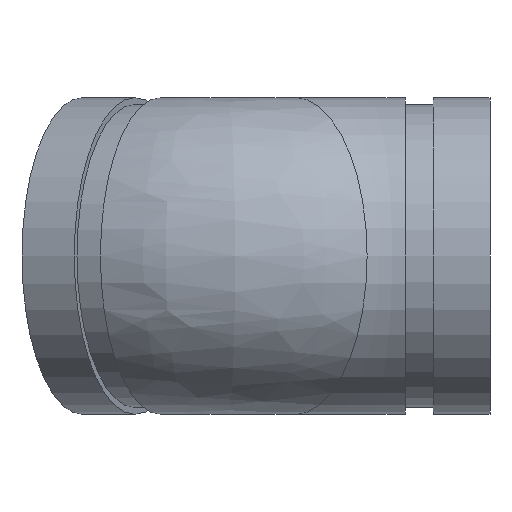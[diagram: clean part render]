
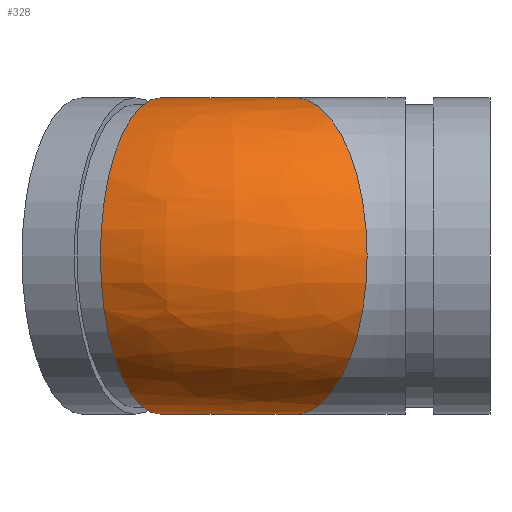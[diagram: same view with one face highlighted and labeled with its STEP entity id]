
A CAD part, left-side view. The second image highlights one B-rep face of the part: STEP entity #328.
In plain terms, the highlighted free-form (B-spline) face has degree [2, 2] with [9, 3] control points.
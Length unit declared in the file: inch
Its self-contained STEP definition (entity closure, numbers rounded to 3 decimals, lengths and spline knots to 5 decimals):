
#63=(
BOUNDED_SURFACE()
B_SPLINE_SURFACE(2,2,((#592,#593,#594),(#595,#596,#597),(#598,#599,#600),
(#601,#602,#603),(#604,#605,#606),(#607,#608,#609),(#610,#611,#612),(#613,
#614,#615),(#616,#617,#618)),.UNSPECIFIED.,.T.,.F.,.F.)
B_SPLINE_SURFACE_WITH_KNOTS((3,2,2,2,3),(3,3),(-3.14159,-1.5708,
0.,1.5708,3.14159),(-0.47669,0.3927),
 .UNSPECIFIED.)
GEOMETRIC_REPRESENTATION_ITEM()
RATIONAL_B_SPLINE_SURFACE(((1.,0.907,1.),(0.707,
0.641,0.707),(1.,0.907,1.),(0.707,
0.641,0.707),(1.,0.907,1.),(0.707,
0.641,0.707),(1.,0.907,1.),(0.707,
0.641,0.707),(1.,0.907,1.)))
REPRESENTATION_ITEM('')
SURFACE()
);
#77=FACE_OUTER_BOUND('',#95,.T.);
#95=EDGE_LOOP('',(#238,#239,#240));
#115=CIRCLE('',#366,1.75);
#127=CIRCLE('',#380,1.75);
#128=CIRCLE('',#381,1.75);
#150=VERTEX_POINT('',#568);
#160=VERTEX_POINT('',#619);
#181=EDGE_CURVE('',#150,#150,#115,.T.);
#193=EDGE_CURVE('',#150,#160,#127,.T.);
#194=EDGE_CURVE('',#160,#150,#128,.T.);
#238=ORIENTED_EDGE('',*,*,#193,.T.);
#239=ORIENTED_EDGE('',*,*,#194,.T.);
#240=ORIENTED_EDGE('',*,*,#181,.F.);
#328=ADVANCED_FACE('',(#77),#63,.F.);
#366=AXIS2_PLACEMENT_3D('',#569,#437,#438);
#380=AXIS2_PLACEMENT_3D('',#620,#465,#466);
#381=AXIS2_PLACEMENT_3D('',#621,#467,#468);
#437=DIRECTION('center_axis',(0.383,0.924,0.));
#438=DIRECTION('ref_axis',(-0.924,0.383,0.));
#465=DIRECTION('center_axis',(-0.459,0.889,0.));
#466=DIRECTION('ref_axis',(-0.889,-0.459,0.));
#467=DIRECTION('center_axis',(-0.459,0.889,0.));
#468=DIRECTION('ref_axis',(-0.889,-0.459,0.));
#568=CARTESIAN_POINT('',(1.25783,2.9637,0.));
#569=CARTESIAN_POINT('Origin',(-0.35896,3.6334,0.));
#592=CARTESIAN_POINT('Ctrl Pts',(1.25783,2.9637,0.));
#593=CARTESIAN_POINT('Ctrl Pts',(1.25783,2.9637,0.));
#594=CARTESIAN_POINT('Ctrl Pts',(1.25783,2.9637,0.));
#595=CARTESIAN_POINT('Ctrl Pts',(1.25783,2.9637,1.75));
#596=CARTESIAN_POINT('Ctrl Pts',(1.25783,2.9637,1.75));
#597=CARTESIAN_POINT('Ctrl Pts',(1.25783,2.9637,1.75));
#598=CARTESIAN_POINT('Ctrl Pts',(-0.29708,2.16074,1.75));
#599=CARTESIAN_POINT('Ctrl Pts',(-0.66991,2.8827,1.75));
#600=CARTESIAN_POINT('Ctrl Pts',(-0.35896,3.6334,1.75));
#601=CARTESIAN_POINT('Ctrl Pts',(-1.85199,1.35777,1.75));
#602=CARTESIAN_POINT('Ctrl Pts',(-2.59764,2.8017,1.75));
#603=CARTESIAN_POINT('Ctrl Pts',(-1.97575,4.3031,1.75));
#604=CARTESIAN_POINT('Ctrl Pts',(-1.85199,1.35777,0.));
#605=CARTESIAN_POINT('Ctrl Pts',(-2.59764,2.8017,0.));
#606=CARTESIAN_POINT('Ctrl Pts',(-1.97575,4.3031,0.));
#607=CARTESIAN_POINT('Ctrl Pts',(-1.85199,1.35777,-1.75));
#608=CARTESIAN_POINT('Ctrl Pts',(-2.59764,2.8017,-1.75));
#609=CARTESIAN_POINT('Ctrl Pts',(-1.97575,4.3031,-1.75));
#610=CARTESIAN_POINT('Ctrl Pts',(-0.29708,2.16074,-1.75));
#611=CARTESIAN_POINT('Ctrl Pts',(-0.66991,2.8827,-1.75));
#612=CARTESIAN_POINT('Ctrl Pts',(-0.35896,3.6334,-1.75));
#613=CARTESIAN_POINT('Ctrl Pts',(1.25783,2.9637,-1.75));
#614=CARTESIAN_POINT('Ctrl Pts',(1.25783,2.9637,-1.75));
#615=CARTESIAN_POINT('Ctrl Pts',(1.25783,2.9637,-1.75));
#616=CARTESIAN_POINT('Ctrl Pts',(1.25783,2.9637,0.));
#617=CARTESIAN_POINT('Ctrl Pts',(1.25783,2.9637,0.));
#618=CARTESIAN_POINT('Ctrl Pts',(1.25783,2.9637,0.));
#619=CARTESIAN_POINT('',(-1.85199,1.35777,0.));
#620=CARTESIAN_POINT('Origin',(-0.29708,2.16074,0.));
#621=CARTESIAN_POINT('Origin',(-0.29708,2.16074,0.));
